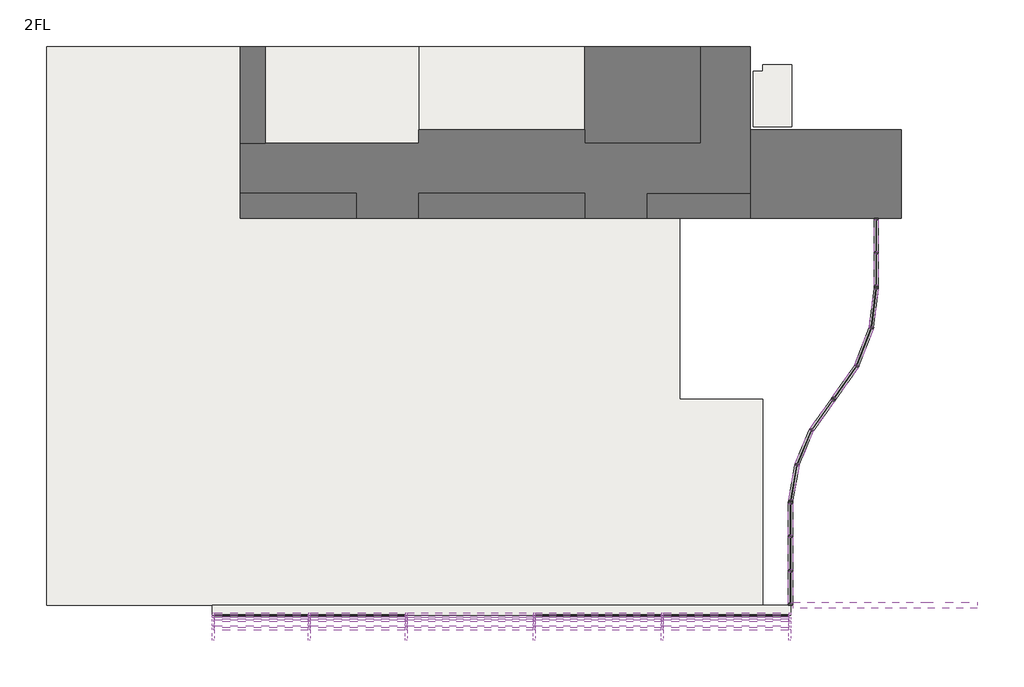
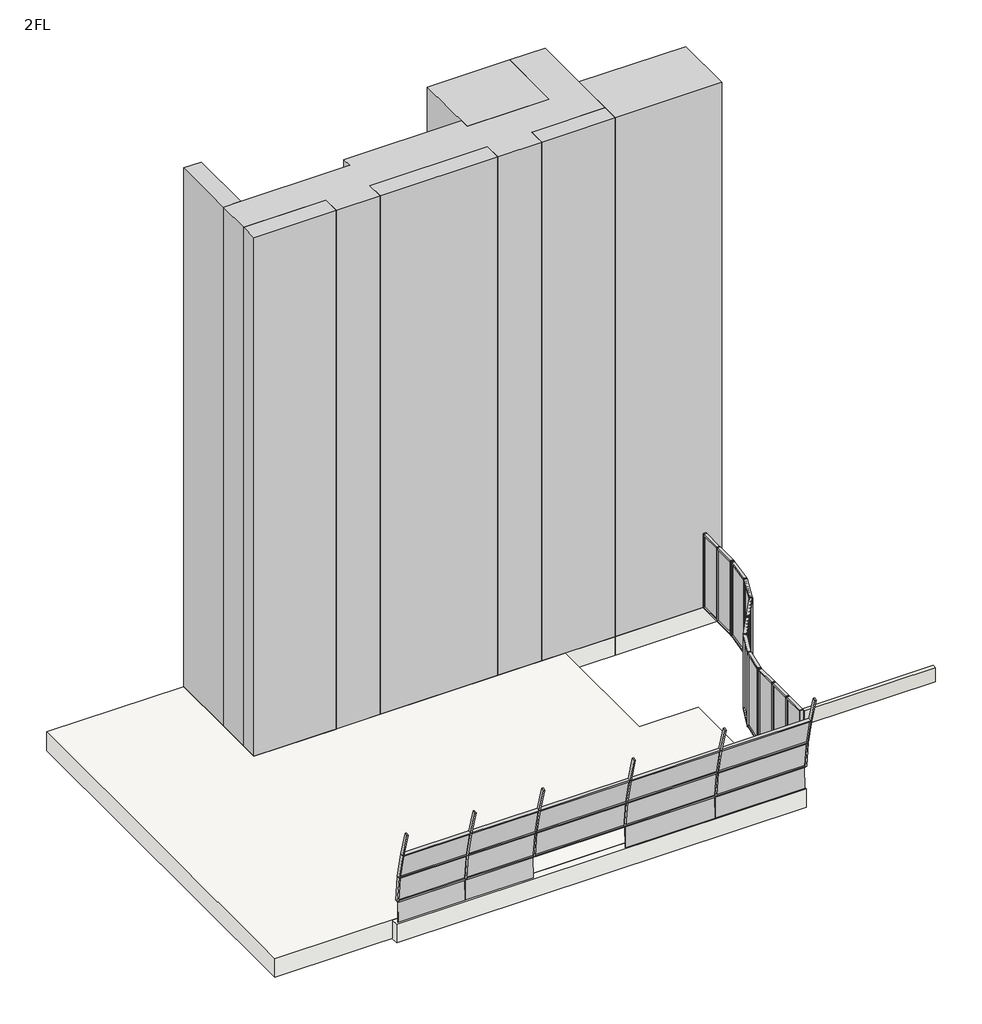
# One storey, incomplete: 70 members, 25 plates, 12 slabs, 7 proxies, 1 wall.
"""IFC4 building model written with IfcOpenShell, lengths in millimetres."""

from ifc_helpers import new_model, si_unit, frame, origin, place, context, project, spatial, polyline, outline, extrude, faceted_brep, transform, mapped, element, save
from components import member_70x150_4d24a05e, member_70x150_d36ba8ce, member_70x150_5c89d520, member_70x150_7418113c, member_70x150_b46a4292, member_70x150_6c732e48, member_70x150_71c02b73, member_70x150_4e0827c0, member_70x150_0f38a6a9, member_70x150_ee129655, member_70x150_32e9e373, member_70x150_a4de2db9, member_70x150_422f1907, member_70x150_7321a808, member_70x150_30001a1b, member_70x150_27deb047, member_70x150_90c23e20, member_70x150_a785b71b, member_70x150_0eadbfe7, member_70x150_9a5e286f, member_70x150_fd538d08, member_70x150_a3f77bd3, member_70x150_8ed7a741, member_70x150_65f8fb8c, plate_a0001f2a, plate_d56826eb, plate_2ab002e3, plate_3db5e68d, plate_ea210885, plate_c254f2f1, plate_601ae4c3, plate_12c708f2, plate_471477f6, plate_e6e96560, plate_9005888e, plate_5af0ace7, plate_9603d0b4, plate_e6aca16e, plate_b8bd1475, plate_c5656bf9, plate_8a20ce8c, plate_51db8471, plate_ba48ed10

model = new_model("IFC4")

# Units and contexts
model_context = context("Model", 3, world=origin())
ifc_project = project(units=[si_unit("LENGTHUNIT", "METRE", prefix="MILLI")], contexts=[model_context])

# Site, building, storey
site = spatial("IfcSite", under=ifc_project)
building = spatial("IfcBuilding", under=site)
storey = spatial("IfcBuildingStorey", under=building, Name="2FL", Elevation=4600.0)

# Proxies
placement = place(None, origin())
element("IfcBuildingElementProxy", 1, Name="i_便所 : i_便所", ObjectType="i_便所 : i_便所", at=placement, inside=storey, context=model_context, shape_type="SweptSolid", body=[
    extrude(outline(polyline([(-5195.9784025, 16649.6868987), (-5195.9784025, 13149.6868987), (-9395.9784025, 13149.6868987), (-9395.9784025, 16649.6868987), (-5195.9784025, 16649.6868987)])), frame((0.0, 0.0, 4600.0), z_axis=(0.0, 0.0, 1.0), x_axis=(1.0, 0.0, 0.0)), (0.0, 0.0, 1.0), 28000.0),
])
element("IfcBuildingElementProxy", 2, Name="i_便所1 : i_便所", ObjectType="i_便所1 : i_便所", at=placement, inside=storey, context=model_context, shape_type="SweptSolid", body=[
    extrude(outline(polyline([(2054.0215975, 13649.6868987), (2054.0215975, 10449.6868987), (-3395.9784025, 10449.6868987), (-3395.9784025, 13649.6868987), (2054.0215975, 13649.6868987)])), frame((0.0, 0.0, 4600.0), z_axis=(0.0, 0.0, 1.0), x_axis=(1.0, 0.0, 0.0)), (0.0, 0.0, 1.0), 28000.0),
])
element("IfcBuildingElementProxy", 3, Name="i_PS : i_PS", ObjectType="i_PS : i_PS", at=placement, inside=storey, context=model_context, shape_type="SweptSolid", body=[
    extrude(outline(polyline([(-20945.9784025, 16649.6868987), (-20945.9784025, 13149.6868987), (-21845.9784025, 13149.6868987), (-21845.9784025, 16649.6868987), (-20945.9784025, 16649.6868987)])), frame((0.0, 0.0, 4600.0), z_axis=(0.0, 0.0, 1.0), x_axis=(1.0, 0.0, 0.0)), (0.0, 0.0, 1.0), 28000.0),
])
element("IfcBuildingElementProxy", 4, Name="i_PS1 : i_PS", ObjectType="i_PS1 : i_PS", at=placement, inside=storey, context=model_context, shape_type="SweptSolid", body=[
    extrude(outline(polyline([(-17645.9784025, 11349.6868987), (-17645.9784025, 10449.6868987), (-21845.9784025, 10449.6868987), (-21845.9784025, 11349.6868987), (-17645.9784025, 11349.6868987)])), frame((0.0, 0.0, 4600.0), z_axis=(0.0, 0.0, 1.0), x_axis=(1.0, 0.0, 0.0)), (0.0, 0.0, 1.0), 28000.0),
])
element("IfcBuildingElementProxy", 5, Name="i_PS2 : i_PS", ObjectType="i_PS2 : i_PS", at=placement, inside=storey, context=model_context, shape_type="SweptSolid", body=[
    extrude(outline(polyline([(-9395.9784025, 11349.6868987), (-9395.9784025, 10449.6868987), (-15395.9784025, 10449.6868987), (-15395.9784025, 11349.6868987), (-9395.9784025, 11349.6868987)])), frame((0.0, 0.0, 4600.0), z_axis=(0.0, 0.0, 1.0), x_axis=(1.0, 0.0, 0.0)), (0.0, 0.0, 1.0), 28000.0),
])
element("IfcBuildingElementProxy", 6, Name="i_PS3 : i_PS", ObjectType="i_PS3 : i_PS", at=placement, inside=storey, context=model_context, shape_type="SweptSolid", body=[
    extrude(outline(polyline([(-3395.9784025, 11349.6868987), (-3395.9784025, 10449.6868987), (-7145.9784025, 10449.6868987), (-7145.9784025, 11349.6868987), (-3395.9784025, 11349.6868987)])), frame((0.0, 0.0, 4600.0), z_axis=(0.0, 0.0, 1.0), x_axis=(1.0, 0.0, 0.0)), (0.0, 0.0, 1.0), 28000.0),
])
element("IfcBuildingElementProxy", 7, Name="i_廊下 : i_廊下", ObjectType="i_廊下 : i_廊下", at=placement, inside=storey, context=model_context, shape_type="SweptSolid", body=[
    extrude(outline(polyline([(-15395.9784025, 13149.6868987), (-15395.9784025, 13649.6868987), (-9395.9784025, 13649.6868987), (-9395.9784025, 13149.6868987), (-5195.9784025, 13149.6868987), (-5195.9784025, 16649.6868987), (-3395.9784025, 16649.6868987), (-3395.9784025, 11349.6868987), (-7145.9784025, 11349.6868987), (-7145.9784025, 10449.6868987), (-9395.9784025, 10449.6868987), (-9395.9784025, 11349.6868987), (-15395.9784025, 11349.6868987), (-15395.9784025, 10449.6868987), (-17645.9784025, 10449.6868987), (-17645.9784025, 11349.6868987), (-21845.9784025, 11349.6868987), (-21845.9784025, 13149.6868987), (-15395.9784025, 13149.6868987)])), frame((0.0, 0.0, 4600.0), z_axis=(0.0, 0.0, 1.0), x_axis=(1.0, 0.0, 0.0)), (0.0, 0.0, 1.0), 28000.0),
])

# Members
member_70x150_shape = member_70x150_4d24a05e(model_context)
element("IfcMember", 8, ObjectType="長方形のマリオン : 70x150", at=placement, inside=storey, context=model_context, shape_type="MappedRepresentation", body=[
    mapped(member_70x150_shape, transform((-2015.9784025, -4367.7047461, 8600.0), x_axis=(0.0, -0.25089826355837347, 0.9680134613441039), y_axis=(0.0, -0.9680134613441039, -0.25089826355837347), z_axis=(1.0, 0.0, 0.0))),
])
element("IfcMember", 9, ObjectType="長方形のマリオン : 70x150", at=placement, inside=storey, context=model_context, shape_type="MappedRepresentation", body=[
    mapped(member_70x150_shape, transform((-2015.9784025, -3900.6919984, 5839.309783), x_axis=(0.0, -0.05385878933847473, 0.9985485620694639), y_axis=(0.0, -0.9985485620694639, -0.05385878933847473), z_axis=(1.0, 0.0, 0.0))),
])
element("IfcMember", 10, ObjectType="長方形のマリオン : 70x150", at=placement, inside=storey, context=model_context, shape_type="MappedRepresentation", body=[
    mapped(member_70x150_shape, transform((-2015.9784025, -4063.1490939, 7218.1472046), x_axis=(0.0, -0.17271681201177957, 0.9849715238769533), y_axis=(0.0, -0.9849715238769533, -0.17271681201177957), z_axis=(1.0, 0.0, 0.0))),
])
member_70x150_2_shape = member_70x150_d36ba8ce(model_context)
element("IfcMember", 11, ObjectType="長方形のマリオン : 70x150", at=placement, inside=storey, context=model_context, shape_type="MappedRepresentation", body=[
    mapped(member_70x150_2_shape, transform((-19380.9784025, -4367.7047461, 8600.0), x_axis=(0.0, -0.2508982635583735, 0.9680134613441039), y_axis=(0.0, -0.9680134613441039, -0.2508982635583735), z_axis=(1.0, 0.0, 0.0))),
])
element("IfcMember", 12, ObjectType="長方形のマリオン : 70x150", at=placement, inside=storey, context=model_context, shape_type="MappedRepresentation", body=[
    mapped(member_70x150_2_shape, transform((-19380.9784025, -4063.1490939, 7218.1472046), x_axis=(0.0, -0.1727168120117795, 0.9849715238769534), y_axis=(0.0, -0.9849715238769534, -0.1727168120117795), z_axis=(1.0, 0.0, 0.0))),
])
element("IfcMember", 13, ObjectType="長方形のマリオン : 70x150", at=placement, inside=storey, context=model_context, shape_type="MappedRepresentation", body=[
    mapped(member_70x150_2_shape, transform((-19380.9784025, -3900.6919984, 5839.309783), x_axis=(0.0, -0.05385878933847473, 0.9985485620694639), y_axis=(0.0, -0.9985485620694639, -0.05385878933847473), z_axis=(1.0, 0.0, 0.0))),
])
member_70x150_3_shape = member_70x150_5c89d520(model_context)
element("IfcMember", 14, ObjectType="長方形のマリオン : 70x150", at=placement, inside=storey, context=model_context, shape_type="MappedRepresentation", body=[
    mapped(member_70x150_3_shape, transform((-6614.3117358, -4367.7047461, 8600.0), x_axis=(0.0, -0.2508982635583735, 0.9680134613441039), y_axis=(0.0, -0.9680134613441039, -0.2508982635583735), z_axis=(1.0, 0.0, 0.0))),
])
element("IfcMember", 15, ObjectType="長方形のマリオン : 70x150", at=placement, inside=storey, context=model_context, shape_type="MappedRepresentation", body=[
    mapped(member_70x150_3_shape, transform((-11247.6450692, -4367.7047461, 8600.0), x_axis=(0.0, -0.2508982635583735, 0.9680134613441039), y_axis=(0.0, -0.9680134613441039, -0.2508982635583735), z_axis=(1.0, 0.0, 0.0))),
])
element("IfcMember", 16, ObjectType="長方形のマリオン : 70x150", at=placement, inside=storey, context=model_context, shape_type="MappedRepresentation", body=[
    mapped(member_70x150_3_shape, transform((-11247.6450692, -4063.1490939, 7218.1472046), x_axis=(0.0, -0.17271681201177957, 0.9849715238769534), y_axis=(0.0, -0.9849715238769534, -0.17271681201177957), z_axis=(1.0, 0.0, 0.0))),
])
element("IfcMember", 17, ObjectType="長方形のマリオン : 70x150", at=placement, inside=storey, context=model_context, shape_type="MappedRepresentation", body=[
    mapped(member_70x150_3_shape, transform((-6614.3117358, -4063.1490939, 7218.1472046), x_axis=(0.0, -0.17271681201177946, 0.9849715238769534), y_axis=(0.0, -0.9849715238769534, -0.17271681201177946), z_axis=(1.0, 0.0, 0.0))),
])
element("IfcMember", 18, ObjectType="長方形のマリオン : 70x150", at=placement, inside=storey, context=model_context, shape_type="MappedRepresentation", body=[
    mapped(member_70x150_3_shape, transform((-6614.3117358, -3900.6919984, 5839.309783), x_axis=(0.0, -0.05385878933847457, 0.9985485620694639), y_axis=(0.0, -0.9985485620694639, -0.05385878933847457), z_axis=(1.0, 0.0, 0.0))),
])
element("IfcMember", 19, ObjectType="長方形のマリオン : 70x150", at=placement, inside=storey, context=model_context, shape_type="MappedRepresentation", body=[
    mapped(member_70x150_3_shape, transform((-11247.6450692, -3900.6919984, 5839.309783), x_axis=(0.0, -0.05385878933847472, 0.9985485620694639), y_axis=(0.0, -0.9985485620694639, -0.05385878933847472), z_axis=(1.0, 0.0, 0.0))),
])
member_70x150_4_shape = member_70x150_7418113c(model_context)
element("IfcMember", 20, ObjectType="長方形のマリオン : 70x150", at=placement, inside=storey, context=model_context, shape_type="MappedRepresentation", body=[
    mapped(member_70x150_4_shape, transform((-15880.9784025, -4367.7047461, 8600.0), x_axis=(0.0, -0.2508982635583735, 0.9680134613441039), y_axis=(0.0, -0.9680134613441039, -0.2508982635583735), z_axis=(1.0, 0.0, 0.0))),
])
element("IfcMember", 21, ObjectType="長方形のマリオン : 70x150", at=placement, inside=storey, context=model_context, shape_type="MappedRepresentation", body=[
    mapped(member_70x150_4_shape, transform((-15880.9784025, -4063.1490939, 7218.1472046), x_axis=(0.0, -0.17271681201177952, 0.9849715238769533), y_axis=(0.0, -0.9849715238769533, -0.17271681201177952), z_axis=(1.0, 0.0, 0.0))),
])
element("IfcMember", 22, ObjectType="長方形のマリオン : 70x150", at=placement, inside=storey, context=model_context, shape_type="MappedRepresentation", body=[
    mapped(member_70x150_4_shape, transform((-15880.9784025, -3900.6919984, 5839.309783), x_axis=(0.0, -0.05385878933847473, 0.9985485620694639), y_axis=(0.0, -0.9985485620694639, -0.05385878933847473), z_axis=(1.0, 0.0, 0.0))),
])
member_70x150_5_shape = member_70x150_b46a4292(model_context)
element("IfcMember", 23, ObjectType="長方形のマリオン : 70x150", at=placement, inside=storey, context=model_context, shape_type="MappedRepresentation", body=[
    mapped(member_70x150_5_shape, transform((-15845.9784025, -4367.7047461, 8600.0), x_axis=(1.0, 0.0, 0.0), y_axis=(0.0, -0.961745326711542, -0.2739451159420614), z_axis=(0.0, 0.2739451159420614, -0.961745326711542))),
])
element("IfcMember", 24, ObjectType="長方形のマリオン : 70x150", at=placement, inside=storey, context=model_context, shape_type="MappedRepresentation", body=[
    mapped(member_70x150_5_shape, transform((-6579.3117358, -4367.7047461, 8600.0), x_axis=(1.0, 0.0, 0.0), y_axis=(0.0, -0.961745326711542, -0.27394511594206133), z_axis=(0.0, 0.27394511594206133, -0.961745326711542))),
])
element("IfcMember", 25, ObjectType="長方形のマリオン : 70x150", at=placement, inside=storey, context=model_context, shape_type="MappedRepresentation", body=[
    mapped(member_70x150_5_shape, transform((-11212.6450692, -4367.7047461, 8600.0), x_axis=(1.0, 0.0, 0.0), y_axis=(0.0, -0.961745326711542, -0.2739451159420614), z_axis=(0.0, 0.2739451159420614, -0.961745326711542))),
])
element("IfcMember", 26, ObjectType="長方形のマリオン : 70x150", at=placement, inside=storey, context=model_context, shape_type="MappedRepresentation", body=[
    mapped(member_70x150_5_shape, transform((-19345.9784025, -4367.7047461, 8600.0), x_axis=(1.0, 0.0, 0.0), y_axis=(0.0, -0.961745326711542, -0.2739451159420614), z_axis=(0.0, 0.2739451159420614, -0.961745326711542))),
])
member_70x150_6_shape = member_70x150_6c732e48(model_context)
element("IfcMember", 27, ObjectType="長方形のマリオン : 70x150", at=placement, inside=storey, context=model_context, shape_type="MappedRepresentation", body=[
    mapped(member_70x150_6_shape, transform((-1945.9784025, -3900.6919984, 5839.309783), x_axis=(1.0, 0.0, 0.0), y_axis=(0.0, -0.9931304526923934, -0.11701240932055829), z_axis=(0.0, 0.11701240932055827, -0.9931304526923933))),
])
member_70x150_7_shape = member_70x150_71c02b73(model_context)
element("IfcMember", 28, ObjectType="長方形のマリオン : 70x150", at=placement, inside=storey, context=model_context, shape_type="MappedRepresentation", body=[
    mapped(member_70x150_7_shape, transform((-1945.9784025, -4063.1490939, 7218.1472046), x_axis=(1.0, 0.0, 0.0), y_axis=(0.0, -0.9765631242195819, -0.2152311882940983), z_axis=(0.0, 0.21523118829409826, -0.9765631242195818))),
])
member_70x150_8_shape = member_70x150_4e0827c0(model_context)
element("IfcMember", 29, ObjectType="長方形のマリオン : 70x150", at=placement, inside=storey, context=model_context, shape_type="MappedRepresentation", body=[
    mapped(member_70x150_8_shape, transform((-22845.9784025, -4367.7047461, 8600.0), x_axis=(-1.0, 0.0, 0.0), y_axis=(0.0, -0.9765631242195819, -0.2152311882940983), z_axis=(0.0, -0.21523118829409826, 0.9765631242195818))),
])
member_70x150_9_shape = member_70x150_0f38a6a9(model_context)
element("IfcMember", 30, ObjectType="長方形のマリオン : 70x150", at=placement, inside=storey, context=model_context, shape_type="MappedRepresentation", body=[
    mapped(member_70x150_9_shape, transform((-1945.9784025, -4367.7047461, 8600.0), x_axis=(1.0, 0.0, 0.0), y_axis=(0.0, -0.9617453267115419, -0.2739451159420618), z_axis=(0.0, 0.2739451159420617, -0.9617453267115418))),
])
member_70x150_10_shape = member_70x150_ee129655(model_context)
element("IfcMember", 31, ObjectType="長方形のマリオン : 70x150", at=placement, inside=storey, context=model_context, shape_type="MappedRepresentation", body=[
    mapped(member_70x150_10_shape, transform((-22845.9784025, -4063.1490939, 7218.1472046), x_axis=(-1.0, 0.0, 0.0), y_axis=(0.0, -0.9931304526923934, -0.11701240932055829), z_axis=(0.0, -0.11701240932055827, 0.9931304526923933))),
])
member_70x150_11_shape = member_70x150_32e9e373(model_context)
element("IfcMember", 32, ObjectType="長方形のマリオン : 70x150", at=placement, inside=storey, context=model_context, shape_type="MappedRepresentation", body=[
    mapped(member_70x150_11_shape, transform((-22845.9784025, -4747.2730575, 9932.5590727), x_axis=(-1.0, 0.0, 0.0), y_axis=(0.0, -0.961745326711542, -0.2739451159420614), z_axis=(0.0, -0.2739451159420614, 0.961745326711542))),
])
member_70x150_12_shape = member_70x150_a4de2db9(model_context)
element("IfcMember", 33, ObjectType="長方形のマリオン : 70x150", at=placement, inside=storey, context=model_context, shape_type="MappedRepresentation", body=[
    mapped(member_70x150_12_shape, transform((-6579.3117358, -3900.6919984, 5839.309783), x_axis=(1.0, 0.0, 0.0), y_axis=(0.0, -0.9931304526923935, -0.1170124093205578), z_axis=(0.0, 0.1170124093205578, -0.9931304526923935))),
])
element("IfcMember", 34, ObjectType="長方形のマリオン : 70x150", at=placement, inside=storey, context=model_context, shape_type="MappedRepresentation", body=[
    mapped(member_70x150_12_shape, transform((-11212.6450692, -3900.6919984, 5839.309783), x_axis=(1.0, 0.0, 0.0), y_axis=(0.0, -0.9931304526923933, -0.11701240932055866), z_axis=(0.0, 0.11701240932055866, -0.9931304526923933))),
])
element("IfcMember", 35, ObjectType="長方形のマリオン : 70x150", at=placement, inside=storey, context=model_context, shape_type="MappedRepresentation", body=[
    mapped(member_70x150_12_shape, transform((-19345.9784025, -3900.6919984, 5839.309783), x_axis=(1.0, 0.0, 0.0), y_axis=(0.0, -0.9931304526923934, -0.11701240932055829), z_axis=(0.0, 0.11701240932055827, -0.9931304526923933))),
])
element("IfcMember", 36, ObjectType="長方形のマリオン : 70x150", at=placement, inside=storey, context=model_context, shape_type="MappedRepresentation", body=[
    mapped(member_70x150_12_shape, transform((-15845.9784025, -3900.6919984, 5839.309783), x_axis=(1.0, 0.0, 0.0), y_axis=(0.0, -0.9931304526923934, -0.11701240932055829), z_axis=(0.0, 0.11701240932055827, -0.9931304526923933))),
])
member_70x150_13_shape = member_70x150_422f1907(model_context)
element("IfcMember", 37, ObjectType="長方形のマリオン : 70x150", at=placement, inside=storey, context=model_context, shape_type="MappedRepresentation", body=[
    mapped(member_70x150_13_shape, transform((-6579.3117358, -4063.1490939, 7218.1472046), x_axis=(1.0, 0.0, 0.0), y_axis=(0.0, -0.9765631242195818, -0.21523118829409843), z_axis=(0.0, 0.21523118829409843, -0.9765631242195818))),
])
element("IfcMember", 38, ObjectType="長方形のマリオン : 70x150", at=placement, inside=storey, context=model_context, shape_type="MappedRepresentation", body=[
    mapped(member_70x150_13_shape, transform((-11212.6450692, -4063.1490939, 7218.1472046), x_axis=(1.0, 0.0, 0.0), y_axis=(0.0, -0.9765631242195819, -0.2152311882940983), z_axis=(0.0, 0.21523118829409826, -0.9765631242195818))),
])
element("IfcMember", 39, ObjectType="長方形のマリオン : 70x150", at=placement, inside=storey, context=model_context, shape_type="MappedRepresentation", body=[
    mapped(member_70x150_13_shape, transform((-19345.9784025, -4063.1490939, 7218.1472046), x_axis=(1.0, 0.0, 0.0), y_axis=(0.0, -0.9765631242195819, -0.2152311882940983), z_axis=(0.0, 0.21523118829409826, -0.9765631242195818))),
])
element("IfcMember", 40, ObjectType="長方形のマリオン : 70x150", at=placement, inside=storey, context=model_context, shape_type="MappedRepresentation", body=[
    mapped(member_70x150_13_shape, transform((-15845.9784025, -4063.1490939, 7218.1472046), x_axis=(1.0, 0.0, 0.0), y_axis=(0.0, -0.9765631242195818, -0.21523118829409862), z_axis=(0.0, 0.21523118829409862, -0.9765631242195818))),
])
member_70x150_14_shape = member_70x150_7321a808(model_context)
element("IfcMember", 41, ObjectType="長方形のマリオン : 70x150", at=placement, inside=storey, context=model_context, shape_type="MappedRepresentation", body=[
    mapped(member_70x150_14_shape, transform((-1945.9784025, -1092.0313348, 8600.0), x_axis=(0.0, 0.0, 1.0), y_axis=(1.0, 0.0, 0.0), z_axis=(0.0, 1.0, 0.0))),
])
member_70x150_15_shape = member_70x150_30001a1b(model_context)
element("IfcMember", 42, ObjectType="長方形のマリオン : 70x150", at=placement, inside=storey, context=model_context, shape_type="MappedRepresentation", body=[
    mapped(member_70x150_15_shape, transform((-1945.9784025, -2338.672218, 8600.0), x_axis=(0.0, 0.0, 1.0), y_axis=(1.0, 0.0, 0.0), z_axis=(0.0, 1.0, 0.0))),
])
element("IfcMember", 43, ObjectType="長方形のマリオン : 70x150", at=placement, inside=storey, context=model_context, shape_type="MappedRepresentation", body=[
    mapped(member_70x150_15_shape, transform((-1945.9784025, 119.6095485, 8600.0), x_axis=(0.0, 0.0, 1.0), y_axis=(1.0, 0.0, 0.0), z_axis=(0.0, 1.0, 0.0))),
])
element("IfcMember", 44, ObjectType="長方形のマリオン : 70x150", at=placement, inside=storey, context=model_context, shape_type="MappedRepresentation", body=[
    mapped(member_70x150_15_shape, transform((-1945.9784025, -1022.0313348, 4600.0), x_axis=(0.0, 0.0, -1.0), y_axis=(1.0, 0.0, 0.0), z_axis=(0.0, -1.0, 0.0))),
])
element("IfcMember", 45, ObjectType="長方形のマリオン : 70x150", at=placement, inside=storey, context=model_context, shape_type="MappedRepresentation", body=[
    mapped(member_70x150_15_shape, transform((-1945.9784025, -3480.3131013, 4600.0), x_axis=(0.0, 0.0, -1.0), y_axis=(1.0, 0.0, 0.0), z_axis=(0.0, -1.0, 0.0))),
])
element("IfcMember", 46, ObjectType="長方形のマリオン : 70x150", at=placement, inside=storey, context=model_context, shape_type="MappedRepresentation", body=[
    mapped(member_70x150_14_shape, transform((-1945.9784025, -2268.672218, 4600.0), x_axis=(0.0, 0.0, -1.0), y_axis=(1.0, 0.0, 0.0), z_axis=(0.0, -1.0, 0.0))),
])
member_70x150_16_shape = member_70x150_27deb047(model_context)
element("IfcMember", 47, ObjectType="長方形のマリオン : 70x150", at=placement, inside=storey, context=model_context, shape_type="MappedRepresentation", body=[
    mapped(member_70x150_16_shape, transform((-1945.9784025, -1057.0313348, 8600.0), x_axis=(0.0, -1.0, 0.0), y_axis=(1.0, 0.0, 0.0), z_axis=(0.0, 0.0, 1.0))),
])
element("IfcMember", 48, ObjectType="長方形のマリオン : 70x150", at=placement, inside=storey, context=model_context, shape_type="MappedRepresentation", body=[
    mapped(member_70x150_16_shape, transform((-1945.9784025, -2303.672218, 8600.0), x_axis=(0.0, -1.0, 0.0), y_axis=(1.0, 0.0, 0.0), z_axis=(0.0, 0.0, 1.0))),
])
element("IfcMember", 49, ObjectType="長方形のマリオン : 70x150", at=placement, inside=storey, context=model_context, shape_type="MappedRepresentation", body=[
    mapped(member_70x150_16_shape, transform((-1187.0541586, 2789.8865673, 8600.0), x_axis=(-0.4859988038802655, -0.8739594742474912, 0.0), y_axis=(0.8739594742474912, -0.4859988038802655, 0.0), z_axis=(0.0, 0.0, 1.0))),
])
element("IfcMember", 50, ObjectType="長方形のマリオン : 70x150", at=placement, inside=storey, context=model_context, shape_type="MappedRepresentation", body=[
    mapped(member_70x150_16_shape, transform((-1712.434841, 1532.3362639, 8600.0), x_axis=(-0.2801735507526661, -0.9599493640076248, 0.0), y_axis=(0.9599493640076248, -0.2801735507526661, 0.0), z_axis=(0.0, 0.0, 1.0))),
])
element("IfcMember", 51, ObjectType="長方形のマリオン : 70x150", at=placement, inside=storey, context=model_context, shape_type="MappedRepresentation", body=[
    mapped(member_70x150_16_shape, transform((1154.0215975, 9199.6868987, 8600.0), x_axis=(0.0, -1.0, 0.0), y_axis=(1.0, 0.0, 0.0), z_axis=(0.0, 0.0, 1.0))),
])
member_70x150_17_shape = member_70x150_90c23e20(model_context)
element("IfcMember", 52, ObjectType="長方形のマリオン : 70x150", at=placement, inside=storey, context=model_context, shape_type="MappedRepresentation", body=[
    mapped(member_70x150_17_shape, transform((-1945.9784025, -3550.3131013, 8600.0), x_axis=(0.0, -1.0, 0.0), y_axis=(1.0, 0.0, 0.0), z_axis=(0.0, 0.0, 1.0))),
])
element("IfcMember", 53, ObjectType="長方形のマリオン : 70x150", at=placement, inside=storey, context=model_context, shape_type="MappedRepresentation", body=[
    mapped(member_70x150_17_shape, transform((-1945.9784025, 189.6095485, 8600.0), x_axis=(-0.17135960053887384, -0.9852085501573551, 0.0), y_axis=(0.9852085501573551, -0.17135960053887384, 0.0), z_axis=(0.0, 0.0, 1.0))),
])
element("IfcMember", 54, ObjectType="長方形のマリオン : 70x150", at=placement, inside=storey, context=model_context, shape_type="MappedRepresentation", body=[
    mapped(member_70x150_17_shape, transform((-395.9784025, 3899.6868987, 8600.0), x_axis=(-0.5722091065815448, -0.820107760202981, 0.0), y_axis=(0.820107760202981, -0.5722091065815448, 0.0), z_axis=(0.0, 0.0, 1.0))),
])
element("IfcMember", 55, ObjectType="長方形のマリオン : 70x150", at=placement, inside=storey, context=model_context, shape_type="MappedRepresentation", body=[
    mapped(member_70x150_17_shape, transform((1154.0215975, 7949.6868987, 8600.0), x_axis=(0.0, -1.0, 0.0), y_axis=(1.0, 0.0, 0.0), z_axis=(0.0, 0.0, 1.0))),
])
element("IfcMember", 56, ObjectType="長方形のマリオン : 70x150", at=placement, inside=storey, context=model_context, shape_type="MappedRepresentation", body=[
    mapped(member_70x150_17_shape, transform((-1945.9784025, 189.6095485, 4600.0), x_axis=(0.0, 1.0, 0.0), y_axis=(1.0, 0.0, 0.0), z_axis=(0.0, 0.0, -1.0))),
])
element("IfcMember", 57, ObjectType="長方形のマリオン : 70x150", at=placement, inside=storey, context=model_context, shape_type="MappedRepresentation", body=[
    mapped(member_70x150_17_shape, transform((-395.9784025, 3899.6868987, 4600.0), x_axis=(0.5804417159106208, 0.8143017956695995, 0.0), y_axis=(0.8143017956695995, -0.5804417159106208, 0.0), z_axis=(0.0, 0.0, -1.0))),
])
element("IfcMember", 58, ObjectType="長方形のマリオン : 70x150", at=placement, inside=storey, context=model_context, shape_type="MappedRepresentation", body=[
    mapped(member_70x150_17_shape, transform((1154.0215975, 7949.6868987, 4600.0), x_axis=(0.12153817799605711, 0.9925867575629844, 0.0), y_axis=(0.9925867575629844, -0.12153817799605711, 0.0), z_axis=(0.0, 0.0, -1.0))),
])
element("IfcMember", 59, ObjectType="長方形のマリオン : 70x150", at=placement, inside=storey, context=model_context, shape_type="MappedRepresentation", body=[
    mapped(member_70x150_17_shape, transform((1154.0215975, 10449.6868987, 4600.0), x_axis=(0.0, 1.0, 0.0), y_axis=(1.0, 0.0, 0.0), z_axis=(0.0, 0.0, -1.0))),
])
member_70x150_18_shape = member_70x150_a785b71b(model_context)
element("IfcMember", 60, ObjectType="長方形のマリオン : 70x150", at=placement, inside=storey, context=model_context, shape_type="MappedRepresentation", body=[
    mapped(member_70x150_18_shape, transform((-1200.546356, 2757.5916667, 8600.0), x_axis=(0.0, 0.0, 1.0), y_axis=(0.9227114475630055, -0.3854913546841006, 0.0), z_axis=(0.3854913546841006, 0.9227114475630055, 0.0))),
])
member_70x150_19_shape = member_70x150_0eadbfe7(model_context)
element("IfcMember", 61, ObjectType="長方形のマリオン : 70x150", at=placement, inside=storey, context=model_context, shape_type="MappedRepresentation", body=[
    mapped(member_70x150_19_shape, transform((-1718.4324271, 1497.8539646, 8600.0), x_axis=(0.0, 0.0, 1.0), y_axis=(0.9852085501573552, -0.1713596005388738, 0.0), z_axis=(0.1713596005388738, 0.9852085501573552, 0.0))),
])
element("IfcMember", 62, ObjectType="長方形のマリオン : 70x150", at=placement, inside=storey, context=model_context, shape_type="MappedRepresentation", body=[
    mapped(member_70x150_19_shape, transform((-1166.7386985, 2818.3871302, 4600.0), x_axis=(0.0, 0.0, -1.0), y_axis=(0.8143017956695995, -0.5804417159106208, 0.0), z_axis=(-0.5804417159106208, -0.8143017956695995, 0.0))),
])
element("IfcMember", 63, ObjectType="長方形のマリオン : 70x150", at=placement, inside=storey, context=model_context, shape_type="MappedRepresentation", body=[
    mapped(member_70x150_18_shape, transform((-1698.9426436, 1564.6311645, 4600.0), x_axis=(0.0, 0.0, -1.0), y_axis=(0.9227114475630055, -0.3854913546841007, 0.0), z_axis=(-0.3854913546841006, -0.9227114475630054, 0.0))),
])
member_70x150_20_shape = member_70x150_9a5e286f(model_context)
element("IfcMember", 64, ObjectType="長方形のマリオン : 70x150", at=placement, inside=storey, context=model_context, shape_type="MappedRepresentation", body=[
    mapped(member_70x150_20_shape, transform((-1933.9832305, 258.574147, 4600.0), x_axis=(0.0, 0.0, -1.0), y_axis=(0.9852085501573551, -0.17135960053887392, 0.0), z_axis=(-0.1713596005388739, -0.985208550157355, 0.0))),
])
element("IfcMember", 65, ObjectType="長方形のマリオン : 70x150", at=placement, inside=storey, context=model_context, shape_type="MappedRepresentation", body=[
    mapped(member_70x150_20_shape, transform((-436.6093226, 3842.685773, 8600.0), x_axis=(0.0, 0.0, 1.0), y_axis=(0.8143017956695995, -0.5804417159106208, 0.0), z_axis=(0.5804417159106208, 0.8143017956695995, 0.0))),
])
member_70x150_21_shape = member_70x150_fd538d08(model_context)
element("IfcMember", 66, ObjectType="長方形のマリオン : 70x150", at=placement, inside=storey, context=model_context, shape_type="MappedRepresentation", body=[
    mapped(member_70x150_21_shape, transform((962.2994331, 6453.3975726, 8600.0), x_axis=(0.0, 0.0, 1.0), y_axis=(0.933938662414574, -0.3574333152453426, 0.0), z_axis=(0.3574333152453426, 0.933938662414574, 0.0))),
])
member_70x150_22_shape = member_70x150_a3f77bd3(model_context)
element("IfcMember", 67, ObjectType="長方形のマリオン : 70x150", at=placement, inside=storey, context=model_context, shape_type="MappedRepresentation", body=[
    mapped(member_70x150_22_shape, transform((427.7352262, 5080.2587059, 8600.0), x_axis=(0.0, 0.0, 1.0), y_axis=(0.820107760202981, -0.5722091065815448, 0.0), z_axis=(0.5722091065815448, 0.820107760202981, 0.0))),
])
element("IfcMember", 68, ObjectType="長方形のマリオン : 70x150", at=placement, inside=storey, context=model_context, shape_type="MappedRepresentation", body=[
    mapped(member_70x150_22_shape, transform((979.0634354, 6520.8259623, 4600.0), x_axis=(0.0, 0.0, -1.0), y_axis=(0.9925867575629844, -0.12153817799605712, 0.0), z_axis=(-0.12153817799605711, -0.9925867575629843, 0.0))),
])
element("IfcMember", 69, ObjectType="長方形のマリオン : 70x150", at=placement, inside=storey, context=model_context, shape_type="MappedRepresentation", body=[
    mapped(member_70x150_21_shape, transform((460.2727109, 5141.6503307, 4600.0), x_axis=(0.0, 0.0, -1.0), y_axis=(0.933938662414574, -0.35743331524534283, 0.0), z_axis=(-0.35743331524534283, -0.933938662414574, 0.0))),
])
element("IfcMember", 70, ObjectType="長方形のマリオン : 70x150", at=placement, inside=storey, context=model_context, shape_type="MappedRepresentation", body=[
    mapped(member_70x150_16_shape, transform((974.8095992, 6486.0854258, 4600.0), x_axis=(0.2412743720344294, 0.9704569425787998, 0.0), y_axis=(0.9704569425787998, -0.2412743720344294, 0.0), z_axis=(0.0, 0.0, -1.0))),
])
element("IfcMember", 71, ObjectType="長方形のマリオン : 70x150", at=placement, inside=storey, context=model_context, shape_type="MappedRepresentation", body=[
    mapped(member_70x150_16_shape, transform((447.7625449, 5108.9624775, 4600.0), x_axis=(0.46829277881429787, 0.883573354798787, 0.0), y_axis=(0.883573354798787, -0.46829277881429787, 0.0), z_axis=(0.0, 0.0, -1.0))),
])
member_70x150_23_shape = member_70x150_8ed7a741(model_context)
element("IfcMember", 72, ObjectType="長方形のマリオン : 70x150", at=placement, inside=storey, context=model_context, shape_type="MappedRepresentation", body=[
    mapped(member_70x150_23_shape, transform((1145.513925, 7880.2058257, 8600.0), x_axis=(0.0, 0.0, 1.0), y_axis=(0.9925867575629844, -0.12153817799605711, 0.0), z_axis=(0.1215381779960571, 0.9925867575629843, 0.0))),
])
element("IfcMember", 73, ObjectType="長方形のマリオン : 70x150", at=placement, inside=storey, context=model_context, shape_type="MappedRepresentation", body=[
    mapped(member_70x150_23_shape, transform((-355.923765, 3957.0944419, 4600.0), x_axis=(0.0, 0.0, -1.0), y_axis=(0.820107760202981, -0.5722091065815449, 0.0), z_axis=(-0.5722091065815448, -0.8201077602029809, 0.0))),
])
member_70x150_24_shape = member_70x150_65f8fb8c(model_context)
element("IfcMember", 74, ObjectType="長方形のマリオン : 70x150", at=placement, inside=storey, context=model_context, shape_type="MappedRepresentation", body=[
    mapped(member_70x150_24_shape, transform((1154.0215975, 9164.6868987, 8600.0), x_axis=(0.0, 0.0, 1.0), y_axis=(1.0, 0.0, 0.0), z_axis=(0.0, 1.0, 0.0))),
])
element("IfcMember", 75, ObjectType="長方形のマリオン : 70x150", at=placement, inside=storey, context=model_context, shape_type="MappedRepresentation", body=[
    mapped(member_70x150_24_shape, transform((1154.0215975, 10379.6868987, 8600.0), x_axis=(0.0, 0.0, 1.0), y_axis=(1.0, 0.0, 0.0), z_axis=(0.0, 1.0, 0.0))),
])
element("IfcMember", 76, ObjectType="長方形のマリオン : 70x150", at=placement, inside=storey, context=model_context, shape_type="MappedRepresentation", body=[
    mapped(member_70x150_24_shape, transform((1154.0215975, 9234.6868987, 4600.0), x_axis=(0.0, 0.0, -1.0), y_axis=(1.0, 0.0, 0.0), z_axis=(0.0, -1.0, 0.0))),
])
element("IfcMember", 77, ObjectType="長方形のマリオン : 70x150", at=placement, inside=storey, context=model_context, shape_type="MappedRepresentation", body=[
    mapped(member_70x150_24_shape, transform((1154.0215975, 8019.6868987, 4600.0), x_axis=(0.0, 0.0, -1.0), y_axis=(1.0, 0.0, 0.0), z_axis=(0.0, -1.0, 0.0))),
])

# Plates
plate_shape = plate_a0001f2a(model_context)
element("IfcPlate", 78, ObjectType="システム パネル : 標準", at=placement, inside=storey, context=model_context, shape_type="MappedRepresentation", body=[
    mapped(plate_shape, transform((-21078.4784025, -3917.5985892, 4669.9926846), x_axis=(1.0, 0.0, 0.0), y_axis=(0.0, 0.9998954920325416, -0.014457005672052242), z_axis=(0.0, 0.014457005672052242, 0.9998954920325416))),
])
plate_2_shape = plate_d56826eb(model_context)
element("IfcPlate", 79, ObjectType="システム パネル : 標準", at=placement, inside=storey, context=model_context, shape_type="MappedRepresentation", body=[
    mapped(plate_2_shape, transform((-21078.4784025, -4070.6821855, 7252.326914), x_axis=(1.0, 0.0, 0.0), y_axis=(0.0, 0.9765631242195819, 0.21523118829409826), z_axis=(0.0, -0.21523118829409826, 0.9765631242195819))),
])
plate_3_shape = plate_2ab002e3(model_context)
element("IfcPlate", 80, ObjectType="システム パネル : 標準", at=placement, inside=storey, context=model_context, shape_type="MappedRepresentation", body=[
    mapped(plate_3_shape, transform((-21078.4784025, -3904.7874327, 5874.0693489), x_axis=(1.0, 0.0, 0.0), y_axis=(0.0, 0.9931304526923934, 0.11701240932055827), z_axis=(0.0, -0.11701240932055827, 0.9931304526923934))),
])
plate_4_shape = plate_3db5e68d(model_context)
element("IfcPlate", 81, ObjectType="システム パネル : 標準", at=placement, inside=storey, context=model_context, shape_type="MappedRepresentation", body=[
    mapped(plate_4_shape, transform((-13529.3117358, -3904.7874327, 5874.0693489), x_axis=(1.0, 0.0, 0.0), y_axis=(0.0, 0.9931304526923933, 0.11701240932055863), z_axis=(0.0, -0.11701240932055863, 0.9931304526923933))),
])
element("IfcPlate", 82, ObjectType="システム パネル : 標準", at=placement, inside=storey, context=model_context, shape_type="MappedRepresentation", body=[
    mapped(plate_4_shape, transform((-8895.9784025, -3904.7874327, 5874.0693489), x_axis=(1.0, 0.0, 0.0), y_axis=(0.0, 0.9931304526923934, 0.11701240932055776), z_axis=(0.0, -0.11701240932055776, 0.9931304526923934))),
])
plate_5_shape = plate_ea210885(model_context)
element("IfcPlate", 83, ObjectType="システム パネル : 標準", at=placement, inside=storey, context=model_context, shape_type="MappedRepresentation", body=[
    mapped(plate_5_shape, transform((-13529.3117358, -4070.6821855, 7252.326914), x_axis=(1.0, 0.0, 0.0), y_axis=(0.0, 0.9765631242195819, 0.21523118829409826), z_axis=(0.0, -0.21523118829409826, 0.9765631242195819))),
])
element("IfcPlate", 84, ObjectType="システム パネル : 標準", at=placement, inside=storey, context=model_context, shape_type="MappedRepresentation", body=[
    mapped(plate_5_shape, transform((-8895.9784025, -4070.6821855, 7252.326914), x_axis=(1.0, 0.0, 0.0), y_axis=(0.0, 0.9765631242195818, 0.2152311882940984), z_axis=(0.0, -0.2152311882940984, 0.9765631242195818))),
])
plate_6_shape = plate_c254f2f1(model_context)
element("IfcPlate", 85, ObjectType="システム パネル : 標準", at=placement, inside=storey, context=model_context, shape_type="MappedRepresentation", body=[
    mapped(plate_6_shape, transform((-17595.9784025, -3917.5985892, 4669.9926846), x_axis=(1.0, 0.0, 0.0), y_axis=(0.0, 0.9998954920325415, -0.014457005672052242), z_axis=(0.0, 0.014457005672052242, 0.9998954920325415))),
])
plate_7_shape = plate_601ae4c3(model_context)
element("IfcPlate", 86, ObjectType="システム パネル : 標準", at=placement, inside=storey, context=model_context, shape_type="MappedRepresentation", body=[
    mapped(plate_7_shape, transform((-17595.9784025, -3904.7874327, 5874.0693489), x_axis=(1.0, 0.0, 0.0), y_axis=(0.0, 0.9931304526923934, 0.11701240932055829), z_axis=(0.0, -0.11701240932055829, 0.9931304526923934))),
])
plate_8_shape = plate_12c708f2(model_context)
element("IfcPlate", 87, ObjectType="システム パネル : 標準", at=placement, inside=storey, context=model_context, shape_type="MappedRepresentation", body=[
    mapped(plate_8_shape, transform((-17595.9784025, -4070.6821855, 7252.326914), x_axis=(1.0, 0.0, 0.0), y_axis=(0.0, 0.9765631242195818, 0.21523118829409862), z_axis=(0.0, -0.21523118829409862, 0.9765631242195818))),
])
plate_9_shape = plate_471477f6(model_context)
element("IfcPlate", 88, ObjectType="システム パネル : 標準", at=placement, inside=storey, context=model_context, shape_type="MappedRepresentation", body=[
    mapped(plate_9_shape, transform((-8895.9784025, -3918.1045871, 4634.9961545), x_axis=(1.0, 0.0, 0.0), y_axis=(0.0, 0.9998954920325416, -0.014457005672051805), z_axis=(0.0, 0.014457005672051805, 0.9998954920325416))),
])
plate_10_shape = plate_e6e96560(model_context)
element("IfcPlate", 89, ObjectType="システム パネル : 標準", at=placement, inside=storey, context=model_context, shape_type="MappedRepresentation", body=[
    mapped(plate_10_shape, transform((-4280.1450692, -3918.1045871, 4634.9961545), x_axis=(1.0, 0.0, 0.0), y_axis=(0.0, 0.9998954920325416, -0.01445700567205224), z_axis=(0.0, 0.01445700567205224, 0.9998954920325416))),
])
plate_11_shape = plate_9005888e(model_context)
element("IfcPlate", 90, ObjectType="システム パネル : 標準", at=placement, inside=storey, context=model_context, shape_type="MappedRepresentation", body=[
    mapped(plate_11_shape, transform((-4280.1450692, -3904.7874327, 5874.0693489), x_axis=(1.0, 0.0, 0.0), y_axis=(0.0, 0.9931304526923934, 0.11701240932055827), z_axis=(0.0, -0.11701240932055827, 0.9931304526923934))),
])
plate_12_shape = plate_5af0ace7(model_context)
element("IfcPlate", 91, ObjectType="システム パネル : 標準", at=placement, inside=storey, context=model_context, shape_type="MappedRepresentation", body=[
    mapped(plate_12_shape, transform((-4280.1450692, -4070.6821855, 7252.326914), x_axis=(1.0, 0.0, 0.0), y_axis=(0.0, 0.9765631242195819, 0.21523118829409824), z_axis=(0.0, -0.21523118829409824, 0.9765631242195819))),
])
plate_13_shape = plate_9603d0b4(model_context)
element("IfcPlate", 92, ObjectType="システム パネル : 標準", at=placement, inside=storey, context=model_context, shape_type="MappedRepresentation", body=[
    mapped(plate_13_shape, transform((-1945.9784025, -451.2108932, 4670.0), x_axis=(0.0, -1.0, 0.0), y_axis=(1.0, 0.0, 0.0), z_axis=(0.0, 0.0, 1.0))),
])
element("IfcPlate", 93, ObjectType="システム パネル : 標準", at=placement, inside=storey, context=model_context, shape_type="MappedRepresentation", body=[
    mapped(plate_13_shape, transform((-1945.9784025, -2909.4926597, 4670.0), x_axis=(0.0, -1.0, 0.0), y_axis=(1.0, 0.0, 0.0), z_axis=(0.0, 0.0, 1.0))),
])
plate_14_shape = plate_e6aca16e(model_context)
element("IfcPlate", 94, ObjectType="システム パネル : 標準", at=placement, inside=storey, context=model_context, shape_type="MappedRepresentation", body=[
    mapped(plate_14_shape, transform((-1945.9784025, -1680.3517764, 4670.0), x_axis=(0.0, -1.0, 0.0), y_axis=(1.0, 0.0, 0.0), z_axis=(0.0, 0.0, 1.0))),
])
plate_15_shape = plate_b8bd1475(model_context)
element("IfcPlate", 95, ObjectType="システム パネル : 標準", at=placement, inside=storey, context=model_context, shape_type="MappedRepresentation", body=[
    mapped(plate_15_shape, transform((-801.6740106, 3330.5364516, 8530.0), x_axis=(-0.5804417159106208, -0.8143017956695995, 0.0), y_axis=(-0.8143017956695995, 0.5804417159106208, 0.0), z_axis=(0.0, 0.0, -1.0))),
])
element("IfcPlate", 96, ObjectType="システム パネル : 標準", at=placement, inside=storey, context=model_context, shape_type="MappedRepresentation", body=[
    mapped(plate_15_shape, transform((-1826.2078288, 878.2140558, 8530.0), x_axis=(-0.17135960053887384, -0.9852085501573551, 0.0), y_axis=(-0.9852085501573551, 0.17135960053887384, 0.0), z_axis=(0.0, 0.0, -1.0))),
])
plate_16_shape = plate_c5656bf9(model_context)
element("IfcPlate", 97, ObjectType="システム パネル : 標準", at=placement, inside=storey, context=model_context, shape_type="MappedRepresentation", body=[
    mapped(plate_16_shape, transform((-1449.7444998, 2161.1114156, 8530.0), x_axis=(-0.3854913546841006, -0.9227114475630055, 0.0), y_axis=(-0.9227114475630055, 0.3854913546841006, 0.0), z_axis=(0.0, 0.0, -1.0))),
])
plate_17_shape = plate_8a20ce8c(model_context)
element("IfcPlate", 98, ObjectType="システム パネル : 標準", at=placement, inside=storey, context=model_context, shape_type="MappedRepresentation", body=[
    mapped(plate_17_shape, transform((35.9057306, 4518.6765739, 4670.0), x_axis=(0.5722091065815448, 0.820107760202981, 0.0), y_axis=(-0.820107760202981, 0.5722091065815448, 0.0), z_axis=(0.0, 0.0, 1.0))),
])
element("IfcPlate", 99, ObjectType="システム パネル : 標準", at=placement, inside=storey, context=model_context, shape_type="MappedRepresentation", body=[
    mapped(plate_17_shape, transform((1062.2886802, 7200.515894, 4670.0), x_axis=(0.12153817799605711, 0.9925867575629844, 0.0), y_axis=(-0.9925867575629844, 0.12153817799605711, 0.0), z_axis=(0.0, 0.0, 1.0))),
])
plate_18_shape = plate_51db8471(model_context)
element("IfcPlate", 100, ObjectType="システム パネル : 標準", at=placement, inside=storey, context=model_context, shape_type="MappedRepresentation", body=[
    mapped(plate_18_shape, transform((711.286072, 5797.5239517, 4670.0), x_axis=(0.35743331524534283, 0.9339386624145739, 0.0), y_axis=(-0.9339386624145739, 0.35743331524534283, 0.0), z_axis=(0.0, 0.0, 1.0))),
])
plate_19_shape = plate_ba48ed10(model_context)
element("IfcPlate", 101, ObjectType="システム パネル : 標準", at=placement, inside=storey, context=model_context, shape_type="MappedRepresentation", body=[
    mapped(plate_19_shape, transform((1154.0215975, 9807.1868987, 4670.0), x_axis=(0.0, -1.0, 0.0), y_axis=(1.0, 0.0, 0.0), z_axis=(0.0, 0.0, 1.0))),
])
element("IfcPlate", 102, ObjectType="システム パネル : 標準", at=placement, inside=storey, context=model_context, shape_type="MappedRepresentation", body=[
    mapped(plate_19_shape, transform((1154.0215975, 8592.1868987, 4670.0), x_axis=(0.0, -1.0, 0.0), y_axis=(1.0, 0.0, 0.0), z_axis=(0.0, 0.0, 1.0))),
])

# Slabs
element("IfcSlab", 103, ObjectType="企画1000", at=placement, inside=storey, context=model_context, shape_type="SweptSolid", body=[
    extrude(outline(polyline([(-17645.9784025, 11349.6868987), (-17645.9784025, 10449.6868987), (-21845.9784025, 10449.6868987), (-21845.9784025, 11349.6868987), (-17645.9784025, 11349.6868987)])), frame((0.0, 0.0, 3600.0), z_axis=(0.0, 0.0, 1.0), x_axis=(1.0, 0.0, 0.0)), (0.0, 0.0, 1.0), 1000.0),
])
element("IfcSlab", 104, ObjectType="企画1000", at=placement, inside=storey, context=model_context, shape_type="SweptSolid", body=[
    extrude(outline(polyline([(-20945.9784025, 16649.6868987), (-20945.9784025, 13149.6868987), (-21845.9784025, 13149.6868987), (-21845.9784025, 16649.6868987), (-20945.9784025, 16649.6868987)])), frame((0.0, 0.0, 3600.0), z_axis=(0.0, 0.0, 1.0), x_axis=(1.0, 0.0, 0.0)), (0.0, 0.0, 1.0), 1000.0),
])
element("IfcSlab", 105, ObjectType="企画1000", at=placement, inside=storey, context=model_context, shape_type="SweptSolid", body=[
    extrude(outline(polyline([(-9395.9784025, 16649.6868987), (-9395.9784025, 13649.6868987), (-15395.9784025, 13649.6868987), (-15395.9784025, 16649.6868987), (-9395.9784025, 16649.6868987)])), frame((0.0, 0.0, 3600.0), z_axis=(0.0, 0.0, 1.0), x_axis=(1.0, 0.0, 0.0)), (0.0, 0.0, 1.0), 1000.0),
])
element("IfcSlab", 106, ObjectType="企画1000", at=placement, inside=storey, context=model_context, shape_type="SweptSolid", body=[
    extrude(outline(polyline([(-9395.9784025, 11349.6868987), (-9395.9784025, 10449.6868987), (-15395.9784025, 10449.6868987), (-15395.9784025, 11349.6868987), (-9395.9784025, 11349.6868987)])), frame((0.0, 0.0, 3600.0), z_axis=(0.0, 0.0, 1.0), x_axis=(1.0, 0.0, 0.0)), (0.0, 0.0, 1.0), 1000.0),
])
element("IfcSlab", 107, ObjectType="企画1000", at=placement, inside=storey, context=model_context, shape_type="SweptSolid", body=[
    extrude(outline(polyline([(2054.0215975, 13649.6868987), (2054.0215975, 10449.6868987), (-3395.9784025, 10449.6868987), (-3395.9784025, 13649.6868987), (2054.0215975, 13649.6868987)])), frame((0.0, 0.0, 3600.0), z_axis=(0.0, 0.0, 1.0), x_axis=(1.0, 0.0, 0.0)), (0.0, 0.0, 1.0), 1000.0),
])
element("IfcSlab", 108, ObjectType="企画1000", at=placement, inside=storey, context=model_context, shape_type="SweptSolid", body=[
    extrude(outline(polyline([(-15395.9784025, 13149.6868987), (-15395.9784025, 13649.6868987), (-9395.9784025, 13649.6868987), (-9395.9784025, 13149.6868987), (-5195.9784025, 13149.6868987), (-5195.9784025, 16649.6868987), (-3395.9784025, 16649.6868987), (-3395.9784025, 11349.6868987), (-7145.9784025, 11349.6868987), (-7145.9784025, 10449.6868987), (-9395.9784025, 10449.6868987), (-9395.9784025, 11349.6868987), (-15395.9784025, 11349.6868987), (-15395.9784025, 10449.6868987), (-17645.9784025, 10449.6868987), (-17645.9784025, 11349.6868987), (-21845.9784025, 11349.6868987), (-21845.9784025, 13149.6868987), (-15395.9784025, 13149.6868987)])), frame((0.0, 0.0, 3600.0), z_axis=(0.0, 0.0, 1.0), x_axis=(1.0, 0.0, 0.0)), (0.0, 0.0, 1.0), 1000.0),
])
element("IfcSlab", 109, ObjectType="企画1000", at=placement, inside=storey, context=model_context, shape_type="SweptSolid", body=[
    extrude(outline(polyline([(-15395.9784025, 16649.6868987), (-15395.9784025, 13149.6868987), (-20945.9784025, 13149.6868987), (-20945.9784025, 16649.6868987), (-15395.9784025, 16649.6868987)])), frame((0.0, 0.0, 3600.0), z_axis=(0.0, 0.0, 1.0), x_axis=(1.0, 0.0, 0.0)), (0.0, 0.0, 1.0), 1000.0),
])
element("IfcSlab", 110, ObjectType="企画1000", at=placement, inside=storey, context=model_context, shape_type="SweptSolid", body=[
    extrude(outline(polyline([(-5195.9784025, 16649.6868987), (-5195.9784025, 13149.6868987), (-9395.9784025, 13149.6868987), (-9395.9784025, 16649.6868987), (-5195.9784025, 16649.6868987)])), frame((0.0, 0.0, 3600.0), z_axis=(0.0, 0.0, 1.0), x_axis=(1.0, 0.0, 0.0)), (0.0, 0.0, 1.0), 1000.0),
])
element("IfcSlab", 111, ObjectType="企画1000", at=placement, inside=storey, context=model_context, shape_type="SweptSolid", body=[
    extrude(outline(polyline([(-3395.9784025, 11349.6868987), (-3395.9784025, 10449.6868987), (-7145.9784025, 10449.6868987), (-7145.9784025, 11349.6868987), (-3395.9784025, 11349.6868987)])), frame((0.0, 0.0, 3600.0), z_axis=(0.0, 0.0, 1.0), x_axis=(1.0, 0.0, 0.0)), (0.0, 0.0, 1.0), 1000.0),
])
element("IfcSlab", 112, ObjectType="企画1000", at=placement, inside=storey, context=model_context, shape_type="SweptSolid", body=[
    extrude(outline(polyline([(-21845.9784025, 16649.6868987), (-21845.9784025, 10449.6868987), (-5945.9784025, 10449.6868987), (-5945.9784025, 3899.6868987), (-2945.9784025, 3899.6868987), (-2945.9784025, -3550.3131013), (-28845.9784025, -3550.3131013), (-28845.9784025, 16649.6868987), (-21845.9784025, 16649.6868987)])), frame((0.0, 0.0, 3600.0), z_axis=(0.0, 0.0, 1.0), x_axis=(1.0, 0.0, 0.0)), (0.0, 0.0, 1.0), 1000.0),
])
element("IfcSlab", 113, ObjectType="企画1000", at=placement, inside=storey, context=model_context, shape_type="SweptSolid", body=[
    extrude(outline(polyline([(-1945.9784025, -3550.3131013), (-1945.9784025, -3918.6105658), (-22845.9784025, -3918.6105658), (-22845.9784025, -3550.3131013), (-1945.9784025, -3550.3131013)])), frame((0.0, 0.0, 3600.0), z_axis=(0.0, 0.0, 1.0), x_axis=(1.0, 0.0, 0.0)), (0.0, 0.0, 1.0), 1000.0),
])
element("IfcSlab", 114, ObjectType="RC250", at=placement, inside=storey, context=model_context, shape_type="SweptSolid", body=[
    extrude(outline(polyline([(-2945.9784025, 15999.6868987), (-1895.9784025, 15999.6868987), (-1895.9784025, 13749.6868987), (-3295.9784025, 13749.6868987), (-3295.9784025, 15749.6868987), (-2945.9784025, 15749.6868987), (-2945.9784025, 15999.6868987)])), frame((0.0, 0.0, 4350.0), z_axis=(0.0, 0.0, 1.0), x_axis=(1.0, 0.0, 0.0)), (0.0, 0.0, 1.0), 250.0),
])

# Wall
element("IfcWall", 115, ObjectType="標準200", at=placement, inside=storey, context=model_context, shape_type="Brep", body=[
    faceted_brep([(-1845.9784025, -3650.3131013, 7850.0), (4810.9285935, -3650.3131013, 7850.0), (4810.9285935, -3650.3131013, 8600.0), (-1845.9784025, -3650.3131013, 8600.0), (-1845.9784025, -3450.3131013, 7850.0), (-1845.9784025, -3450.3131013, 8600.0), (4810.9285935, -3450.3131013, 8600.0), (4810.9285935, -3450.3131013, 7850.0), (3654.0215975, -3450.3131013, 7850.0), (2754.0215975, -3450.3131013, 7850.0)], [[[0, 1, 2, 3]], [[4, 5, 6, 7, 8, 9]], [[1, 0, 4, 9, 8, 7]], [[2, 1, 7, 6]], [[3, 2, 6, 5]], [[0, 3, 5, 4]]]),
])

save(model, "model.ifc")
